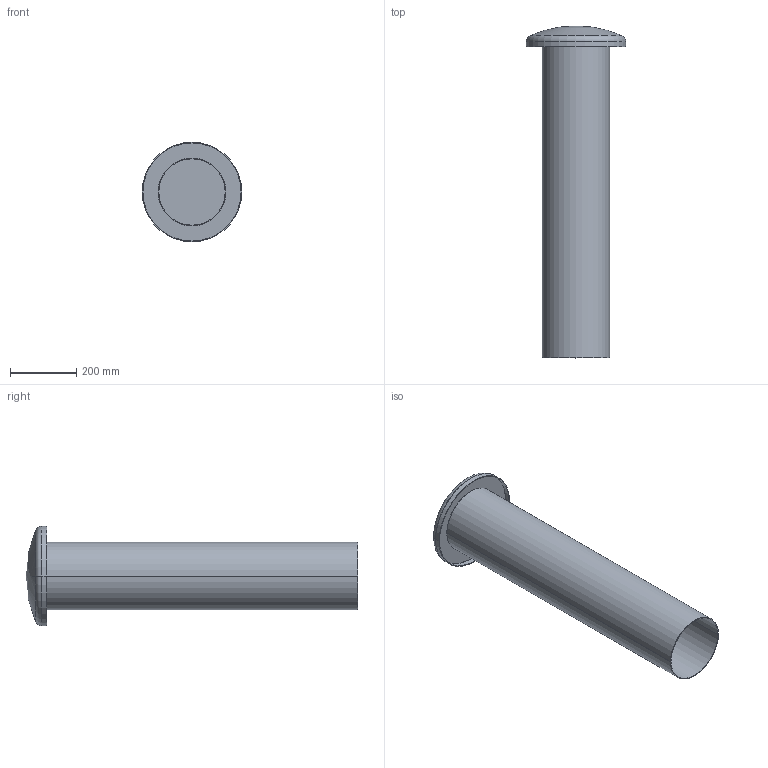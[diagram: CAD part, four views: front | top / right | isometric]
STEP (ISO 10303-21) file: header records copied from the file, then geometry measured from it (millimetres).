
FILE_DESCRIPTION((''),'2;1');
FILE_NAME('52221739','2024-03-27T13:49:16',('brma'),('HUBER SE'),'CREO PARAMETRIC BY PTC INC, 2023154','CREO PARAMETRIC BY PTC INC, 2023154','');
FILE_SCHEMA(('AUTOMOTIVE_DESIGN { 1 0 10303 214 1 1 1 1 }'));
Length unit declared in the file: millimetre
Products named in the file (1): 52221739
Bounding box: 300 x 1000 x 300 mm (x, y, z)
Volume: 1539438.1 mm3; surface area: 1539421.1 mm2
Topology: 1 solids, 2 shells, 21 faces, 42 edges, 24 vertices
Faces by surface type: cylinder 8, plane 5, torus 4, sphere 4
Entity records: 1061 total; most frequent: DIRECTION 110, COLOUR_RGB 106, CARTESIAN_POINT 85, ORIENTED_EDGE 76, PROPERTY_DEFINITION 72, REPRESENTATION 71, PROPERTY_DEFINITION_REPRESENTATION 71, DESCRIPTIVE_REPRESENTATION_ITEM 60
